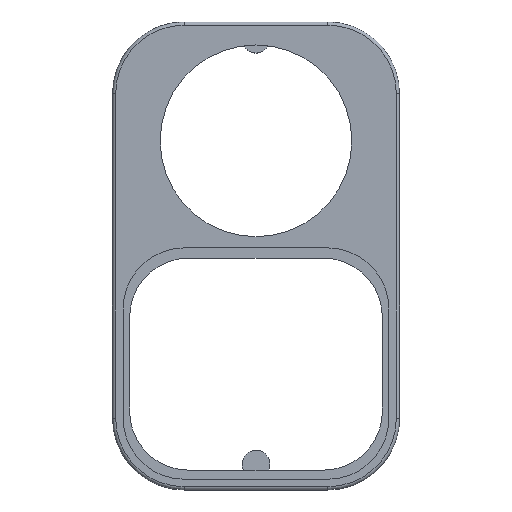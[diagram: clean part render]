
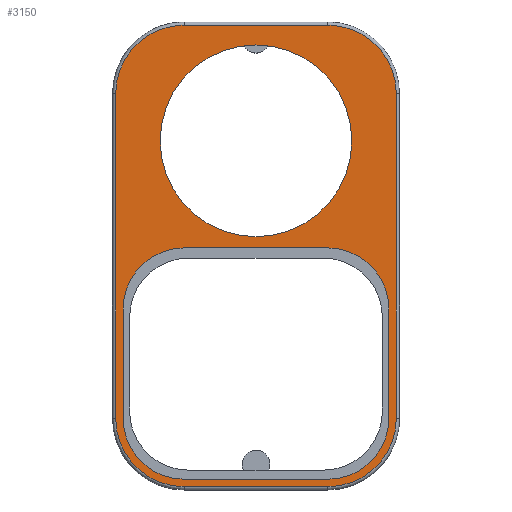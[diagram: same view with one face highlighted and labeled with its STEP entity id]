
A CAD part, top view. The second image highlights one B-rep face of the part: STEP entity #3150.
In plain terms, the highlighted planar face has unit normal (0, 0, 1).
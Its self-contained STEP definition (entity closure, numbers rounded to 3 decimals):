
#2630 = VERTEX_POINT('',#2631);
#2631 = CARTESIAN_POINT('',(1.58,13.53,12.3));
#2640 = VERTEX_POINT('',#2641);
#2641 = CARTESIAN_POINT('',(13.53,1.58,12.3));
#2648 = EDGE_CURVE('',#2630,#2640,#2649,.T.);
#2649 = CIRCLE('',#2650,11.95);
#2650 = AXIS2_PLACEMENT_3D('',#2651,#2652,#2653);
#2651 = CARTESIAN_POINT('',(13.53,13.53,12.3));
#2652 = DIRECTION('',(0.,0.,1.));
#2653 = DIRECTION('',(-1.,0.,0.));
#2664 = VERTEX_POINT('',#2665);
#2665 = CARTESIAN_POINT('',(1.58,70.03,12.3));
#2672 = EDGE_CURVE('',#2664,#2630,#2673,.T.);
#2673 = LINE('',#2674,#2675);
#2674 = CARTESIAN_POINT('',(1.58,70.03,12.3));
#2675 = VECTOR('',#2676,1.);
#2676 = DIRECTION('',(-0.,-1.,-0.));
#2689 = VERTEX_POINT('',#2690);
#2690 = CARTESIAN_POINT('',(13.53,81.98,12.3));
#2699 = EDGE_CURVE('',#2689,#2664,#2700,.T.);
#2700 = CIRCLE('',#2701,11.95);
#2701 = AXIS2_PLACEMENT_3D('',#2702,#2703,#2704);
#2702 = CARTESIAN_POINT('',(13.53,70.03,12.3));
#2703 = DIRECTION('',(0.,-0.,1.));
#2704 = DIRECTION('',(0.,1.,0.));
#2715 = VERTEX_POINT('',#2716);
#2716 = CARTESIAN_POINT('',(38.53,81.98,12.3));
#2723 = EDGE_CURVE('',#2715,#2689,#2724,.T.);
#2724 = LINE('',#2725,#2726);
#2725 = CARTESIAN_POINT('',(38.53,81.98,12.3));
#2726 = VECTOR('',#2727,1.);
#2727 = DIRECTION('',(-1.,-0.,-0.));
#2740 = VERTEX_POINT('',#2741);
#2741 = CARTESIAN_POINT('',(50.48,70.03,12.3));
#2750 = EDGE_CURVE('',#2740,#2715,#2751,.T.);
#2751 = CIRCLE('',#2752,11.95);
#2752 = AXIS2_PLACEMENT_3D('',#2753,#2754,#2755);
#2753 = CARTESIAN_POINT('',(38.53,70.03,12.3));
#2754 = DIRECTION('',(0.,0.,1.));
#2755 = DIRECTION('',(1.,0.,0.));
#2766 = VERTEX_POINT('',#2767);
#2767 = CARTESIAN_POINT('',(50.48,13.53,12.3));
#2774 = EDGE_CURVE('',#2766,#2740,#2775,.T.);
#2775 = LINE('',#2776,#2777);
#2776 = CARTESIAN_POINT('',(50.48,13.53,12.3));
#2777 = VECTOR('',#2778,1.);
#2778 = DIRECTION('',(0.,1.,0.));
#2791 = VERTEX_POINT('',#2792);
#2792 = CARTESIAN_POINT('',(38.53,1.58,12.3));
#2801 = EDGE_CURVE('',#2791,#2766,#2802,.T.);
#2802 = CIRCLE('',#2803,11.95);
#2803 = AXIS2_PLACEMENT_3D('',#2804,#2805,#2806);
#2804 = CARTESIAN_POINT('',(38.53,13.53,12.3));
#2805 = DIRECTION('',(-0.,0.,1.));
#2806 = DIRECTION('',(0.,-1.,0.));
#2817 = EDGE_CURVE('',#2640,#2791,#2818,.T.);
#2818 = LINE('',#2819,#2820);
#2819 = CARTESIAN_POINT('',(13.53,1.58,12.3));
#2820 = VECTOR('',#2821,1.);
#2821 = DIRECTION('',(1.,0.,0.));
#2834 = VERTEX_POINT('',#2835);
#2835 = CARTESIAN_POINT('',(13.53,2.88,12.3));
#2843 = VERTEX_POINT('',#2844);
#2844 = CARTESIAN_POINT('',(2.88,13.53,12.3));
#2850 = EDGE_CURVE('',#2834,#2843,#2851,.T.);
#2851 = CIRCLE('',#2852,10.65);
#2852 = AXIS2_PLACEMENT_3D('',#2853,#2854,#2855);
#2853 = CARTESIAN_POINT('',(13.53,13.53,12.3));
#2854 = DIRECTION('',(0.,0.,-1.));
#2855 = DIRECTION('',(1.,0.,0.));
#2868 = VERTEX_POINT('',#2869);
#2869 = CARTESIAN_POINT('',(2.88,32.53,12.3));
#2875 = EDGE_CURVE('',#2843,#2868,#2876,.T.);
#2876 = LINE('',#2877,#2878);
#2877 = CARTESIAN_POINT('',(2.88,27.655,12.3));
#2878 = VECTOR('',#2879,1.);
#2879 = DIRECTION('',(0.,1.,0.));
#2891 = EDGE_CURVE('',#2892,#2834,#2894,.T.);
#2892 = VERTEX_POINT('',#2893);
#2893 = CARTESIAN_POINT('',(38.53,2.88,12.3));
#2894 = LINE('',#2895,#2896);
#2895 = CARTESIAN_POINT('',(19.78,2.88,12.3));
#2896 = VECTOR('',#2897,1.);
#2897 = DIRECTION('',(-1.,0.,0.));
#2915 = VERTEX_POINT('',#2916);
#2916 = CARTESIAN_POINT('',(13.53,43.18,12.3));
#2922 = EDGE_CURVE('',#2868,#2915,#2923,.T.);
#2923 = CIRCLE('',#2924,10.65);
#2924 = AXIS2_PLACEMENT_3D('',#2925,#2926,#2927);
#2925 = CARTESIAN_POINT('',(13.53,32.53,12.3));
#2926 = DIRECTION('',(0.,0.,-1.));
#2927 = DIRECTION('',(1.,0.,0.));
#2939 = VERTEX_POINT('',#2940);
#2940 = CARTESIAN_POINT('',(49.18,13.53,12.3));
#2948 = EDGE_CURVE('',#2939,#2892,#2949,.T.);
#2949 = CIRCLE('',#2950,10.65);
#2950 = AXIS2_PLACEMENT_3D('',#2951,#2952,#2953);
#2951 = CARTESIAN_POINT('',(38.53,13.53,12.3));
#2952 = DIRECTION('',(0.,0.,-1.));
#2953 = DIRECTION('',(1.,0.,0.));
#2965 = EDGE_CURVE('',#2966,#2915,#2968,.T.);
#2966 = VERTEX_POINT('',#2967);
#2967 = CARTESIAN_POINT('',(38.53,43.18,12.3));
#2968 = LINE('',#2969,#2970);
#2969 = CARTESIAN_POINT('',(19.78,43.18,12.3));
#2970 = VECTOR('',#2971,1.);
#2971 = DIRECTION('',(-1.,0.,0.));
#2990 = VERTEX_POINT('',#2991);
#2991 = CARTESIAN_POINT('',(49.18,32.53,12.3));
#2997 = EDGE_CURVE('',#2939,#2990,#2998,.T.);
#2998 = LINE('',#2999,#3000);
#2999 = CARTESIAN_POINT('',(49.18,27.655,12.3));
#3000 = VECTOR('',#3001,1.);
#3001 = DIRECTION('',(0.,1.,0.));
#3013 = EDGE_CURVE('',#2966,#2990,#3014,.T.);
#3014 = CIRCLE('',#3015,10.65);
#3015 = AXIS2_PLACEMENT_3D('',#3016,#3017,#3018);
#3016 = CARTESIAN_POINT('',(38.53,32.53,12.3));
#3017 = DIRECTION('',(0.,0.,-1.));
#3018 = DIRECTION('',(1.,0.,0.));
#3081 = VERTEX_POINT('',#3082);
#3082 = CARTESIAN_POINT('',(42.73,61.83,12.3));
#3088 = EDGE_CURVE('',#3081,#3081,#3089,.T.);
#3089 = CIRCLE('',#3090,16.7);
#3090 = AXIS2_PLACEMENT_3D('',#3091,#3092,#3093);
#3091 = CARTESIAN_POINT('',(26.03,61.83,12.3));
#3092 = DIRECTION('',(0.,0.,-1.));
#3093 = DIRECTION('',(1.,0.,0.));
#3150 = ADVANCED_FACE('',(#3151,#3161,#3171),#3174,.T.);
#3151 = FACE_BOUND('',#3152,.T.);
#3152 = EDGE_LOOP('',(#3153,#3154,#3155,#3156,#3157,#3158,#3159,#3160));
#3153 = ORIENTED_EDGE('',*,*,#2648,.T.);
#3154 = ORIENTED_EDGE('',*,*,#2817,.T.);
#3155 = ORIENTED_EDGE('',*,*,#2801,.T.);
#3156 = ORIENTED_EDGE('',*,*,#2774,.T.);
#3157 = ORIENTED_EDGE('',*,*,#2750,.T.);
#3158 = ORIENTED_EDGE('',*,*,#2723,.T.);
#3159 = ORIENTED_EDGE('',*,*,#2699,.T.);
#3160 = ORIENTED_EDGE('',*,*,#2672,.T.);
#3161 = FACE_BOUND('',#3162,.T.);
#3162 = EDGE_LOOP('',(#3163,#3164,#3165,#3166,#3167,#3168,#3169,#3170));
#3163 = ORIENTED_EDGE('',*,*,#2891,.T.);
#3164 = ORIENTED_EDGE('',*,*,#2850,.T.);
#3165 = ORIENTED_EDGE('',*,*,#2875,.T.);
#3166 = ORIENTED_EDGE('',*,*,#2922,.T.);
#3167 = ORIENTED_EDGE('',*,*,#2965,.F.);
#3168 = ORIENTED_EDGE('',*,*,#3013,.T.);
#3169 = ORIENTED_EDGE('',*,*,#2997,.F.);
#3170 = ORIENTED_EDGE('',*,*,#2948,.T.);
#3171 = FACE_BOUND('',#3172,.T.);
#3172 = EDGE_LOOP('',(#3173));
#3173 = ORIENTED_EDGE('',*,*,#3088,.T.);
#3174 = PLANE('',#3175);
#3175 = AXIS2_PLACEMENT_3D('',#3176,#3177,#3178);
#3176 = CARTESIAN_POINT('',(26.03,41.78,12.3));
#3177 = DIRECTION('',(0.,0.,1.));
#3178 = DIRECTION('',(1.,0.,0.));
